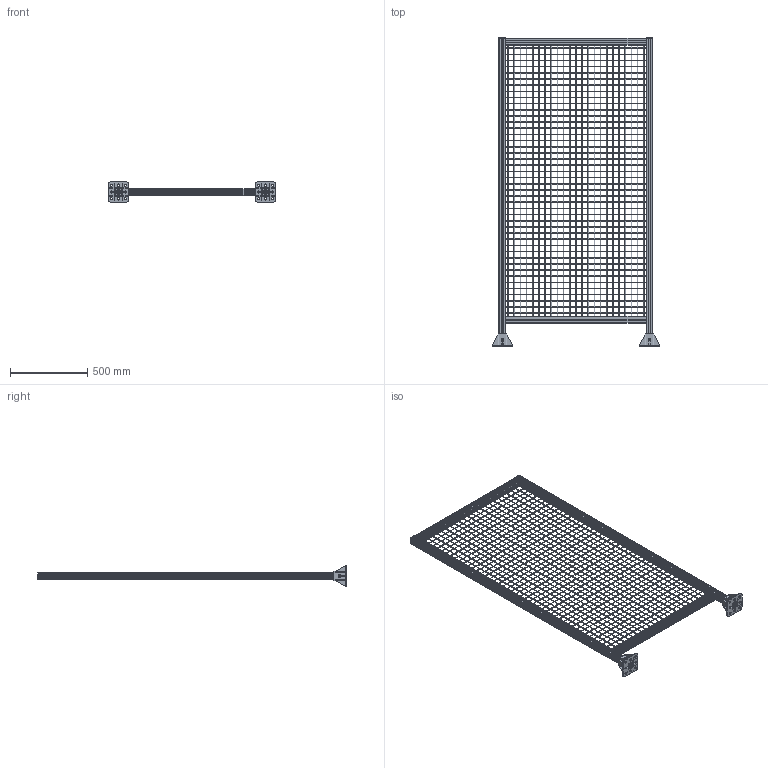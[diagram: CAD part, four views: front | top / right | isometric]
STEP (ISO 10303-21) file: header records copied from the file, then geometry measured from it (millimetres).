
FILE_DESCRIPTION (( 'STEP AP214' ), '1' );
FILE_NAME ('5.0001 Laitesuojan seinäelementti 1000X2000 mm keltainen.STEP', '2026-03-02T13:42:18', ( '' ), ( '' ), 'SwSTEP 2.0', 'SolidWorks 2025', '' );
FILE_SCHEMA (( 'AUTOMOTIVE_DESIGN' ));
Length unit declared in the file: millimetre
Products named in the file (1): 5.0001 Laitesuojan seinäelementti 1000X2000 mm keltainen
Bounding box: 1090 x 2003 x 134 mm (x, y, z)
Volume: 4762447 mm3; surface area: 4738092.9 mm2
Topology: 99 solids, 99 shells, 2300 faces, 5994 edges, 3900 vertices
Faces by surface type: plane 1264, cylinder 746, bspline 178, cone 72, torus 40
Entity records: 103135 total; most frequent: CARTESIAN_POINT 20277, ORIENTED_EDGE 11956, DIRECTION 11392, EDGE_CURVE 5978, VERTEX_POINT 3900, LINE 3810, VECTOR 3810, AXIS2_PLACEMENT_3D 3791
